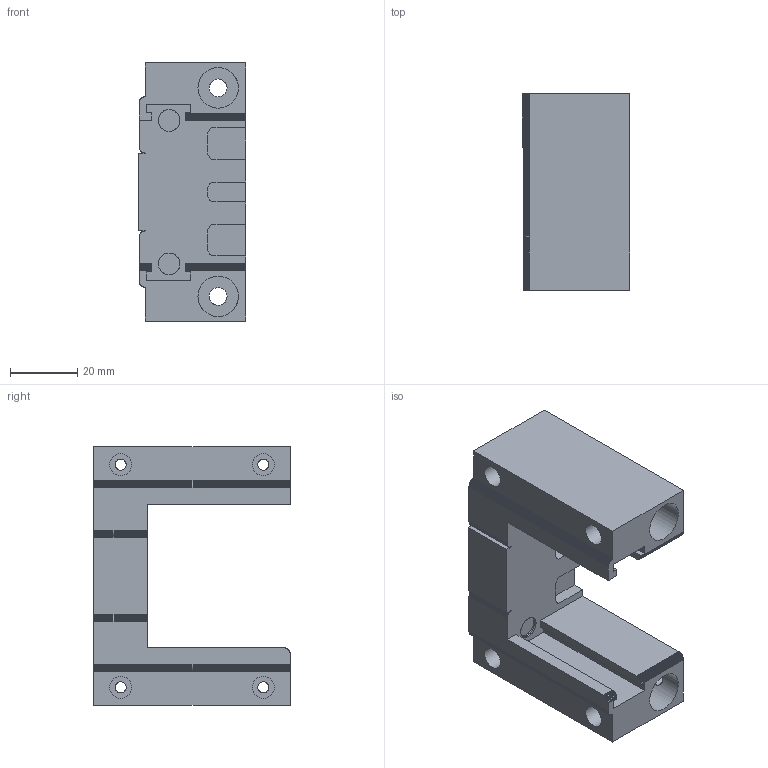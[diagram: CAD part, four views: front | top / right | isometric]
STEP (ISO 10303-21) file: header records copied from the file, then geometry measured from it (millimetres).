
FILE_DESCRIPTION(/* description */ (''),/* implementation_level */ '2;1');
FILE_NAME(/* name */ 'mount-bracket.step',/* time_stamp */ '2026-06-03T23:49:28+01:00',/* author */ (''),/* organization */ (''),/* preprocessor_version */ 'ST-DEVELOPER v20.1',/* originating_system */ 'Autodesk Translation Framework v15.8.0.0',/* authorisation */ '');
FILE_SCHEMA (('AUTOMOTIVE_DESIGN { 1 0 10303 214 3 1 1 }'));
Length unit declared in the file: millimetre
Products named in the file (1): mount-bracket
Bounding box: 31.8 x 58.3 x 76.5 mm (x, y, z)
Volume: 70181.1 mm3; surface area: 21313.8 mm2
Topology: 1 solids, 1 shells, 662 faces, 1951 edges, 1297 vertices
Faces by surface type: plane 648, cylinder 14
Full cylindrical faces by diameter (mm): 3.3 x6, 5.3 x2, 6.5 x4, 12 x2
Entity records: 21882 total; most frequent: CARTESIAN_POINT 4148, ORIENTED_EDGE 3902, DIRECTION 3288, EDGE_CURVE 1951, LINE 1914, VECTOR 1914, VERTEX_POINT 1297, EDGE_LOOP 688
